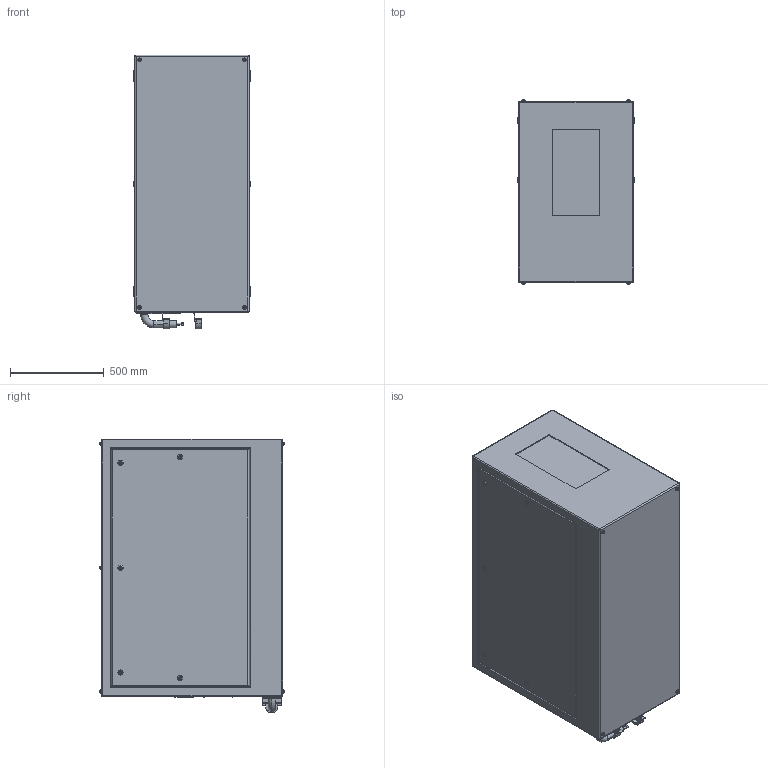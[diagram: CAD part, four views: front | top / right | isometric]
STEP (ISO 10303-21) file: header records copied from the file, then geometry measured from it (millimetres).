
FILE_DESCRIPTION (( 'STEP AP214' ), '1' );
FILE_NAME ('Oasis 59.305.P R02.STEP', '2022-09-12T23:41:03', ( '' ), ( '' ), 'SwSTEP 2.0', 'SolidWorks 2020', '' );
FILE_SCHEMA (( 'AUTOMOTIVE_DESIGN' ));
Length unit declared in the file: inch
Products named in the file (1): Oasis 59.305.P R02
Bounding box: 622.3 x 982.47 x 1460.5 mm (x, y, z)
Volume: 806148920.1 mm3; surface area: 6088343.6 mm2
Topology: 3 solids, 9 shells, 570 faces, 1303 edges, 828 vertices
Faces by surface type: plane 315, cylinder 193, torus 54, bspline 8
Entity records: 21911 total; most frequent: CARTESIAN_POINT 3214, DIRECTION 2847, ORIENTED_EDGE 2590, EDGE_CURVE 1295, AXIS2_PLACEMENT_3D 1021, VERTEX_POINT 828, VECTOR 805, LINE 805
